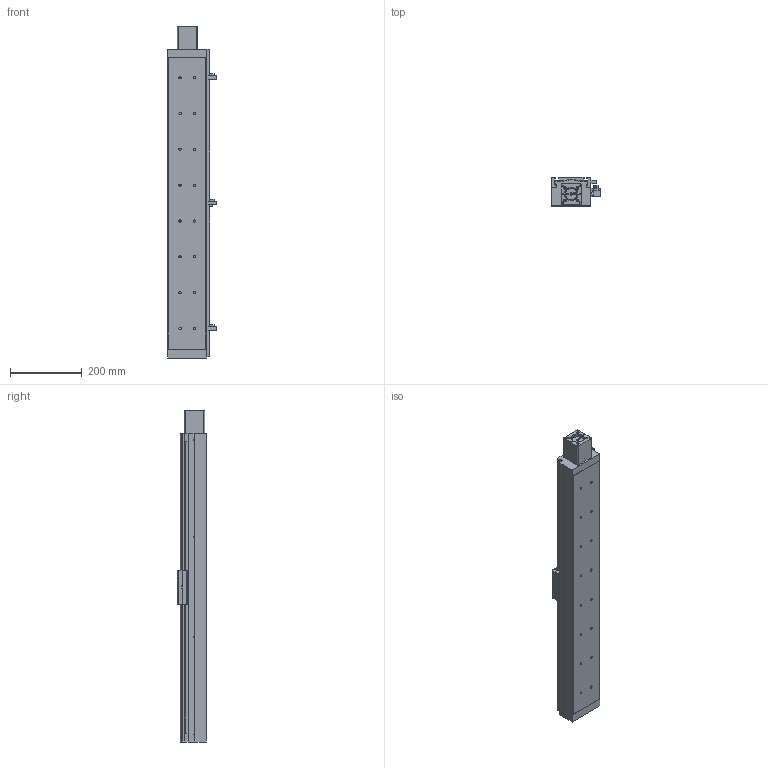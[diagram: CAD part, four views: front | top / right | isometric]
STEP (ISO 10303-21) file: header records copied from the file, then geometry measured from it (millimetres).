
FILE_DESCRIPTION((''),'2;1');
FILE_NAME('E:\libraries\UIA actuator library 2009\standard actuator\UIA110R12(15)DC\UIA110R12(15)DC-ball screw dia.20\UIA110R12(15)DC-_ _ _-R20_ _-M23 step file 20Apr16\UIA110R12(15)DC-700-R20_ _-M23-P13-C10-S.stp','2016-04-21T11:48:31',('h029'),(''),'Autodesk Inventor 11','Autodesk Inventor 11','');
FILE_SCHEMA(('AUTOMOTIVE_DESIGN { 1 0 10303 214 1 1 1 1 }'));
Length unit declared in the file: millimetre
Products named in the file (10): UIA110R12(15)DC-700, ball screw dia.20; body, UIA110R12(15)DC-700,ball screw dia.20; Carriage, UIA110R12(15)DC; Sen Switch, UIA110R12(15)DC; sensor rail, UIA110R12(15)DC-700; M23 motor mount; SOH-32C; SOH-32C-3; SOH-32C-1; SOH-32C-2
Assembly tree (9 placements, depth 3):
  UIA110R12(15)DC-700, ball screw dia.20
    body, UIA110R12(15)DC-700,ball screw dia.20
    Carriage, UIA110R12(15)DC
    Sen Switch, UIA110R12(15)DC
    sensor rail, UIA110R12(15)DC-700
    M23 motor mount
    SOH-32C
      SOH-32C-3
      SOH-32C-1
      SOH-32C-2
Bounding box: 136.5 x 81 x 927 mm (x, y, z)
Volume: 6586198 mm3; surface area: 530993.2 mm2
Topology: 8 solids, 8 shells, 645 faces, 1728 edges, 1133 vertices
Faces by surface type: plane 411, cylinder 132, bspline 83, cone 19
Full cylindrical faces by diameter (mm): 2.459 x4, 3.242 x4, 4 x6, 4.5 x4, 5.5 x3, 6.35 x1, 6.5 x16, 7.5 x4, 9.5 x6, 10 x2, 10.5 x16, 12 x1, 25 x1, 32 x3, 37 x1, 38.1 x1, 42 x1, 42.01 x1, 43.5 x1
Entity records: 20580 total; most frequent: CARTESIAN_POINT 5187, DIRECTION 3095, ORIENTED_EDGE 2970, EDGE_CURVE 1485, VERTEX_POINT 1056, AXIS2_PLACEMENT_3D 1046, VECTOR 1003, LINE 1003
